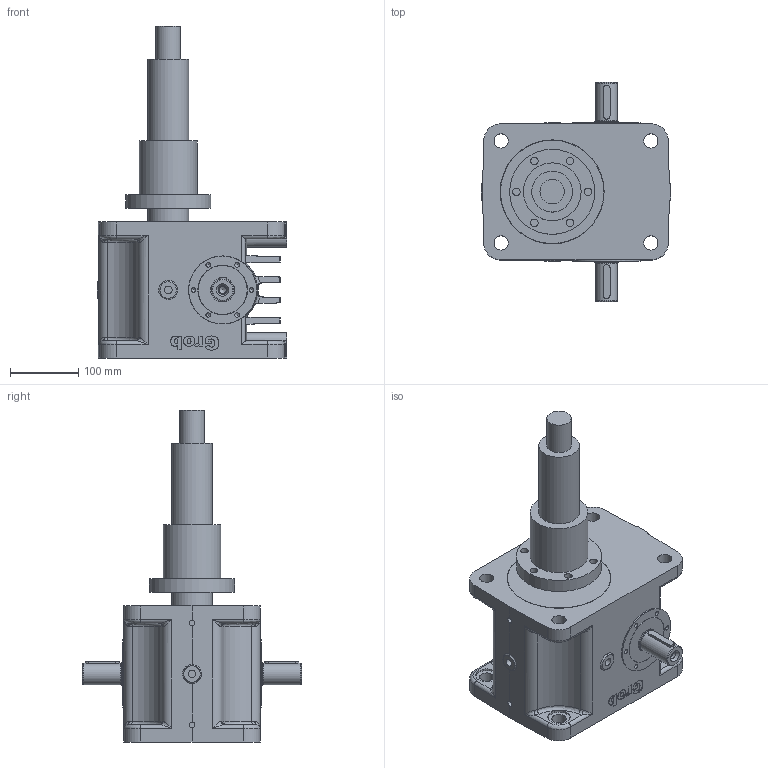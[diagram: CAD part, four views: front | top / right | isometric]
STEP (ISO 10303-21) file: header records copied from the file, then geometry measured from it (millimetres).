
FILE_DESCRIPTION(('STEP AP203'),'1');
FILE_NAME('hmc_10-lmn-kd-1f-z-0100-0239-tr60x12-bpos0.stp','2025-08-19T11:40:47',('TraceParts'),('TraceParts S.A.'),'Spatial InterOp 3D',' ',' ');
FILE_SCHEMA(('CONFIG_CONTROL_DESIGN'));
Length unit declared in the file: millimetre
Products named in the file (1): 1
Bounding box: 279 x 322 x 488 mm (x, y, z)
Volume: 9882611 mm3; surface area: 463292.7 mm2
Topology: 2 solids, 2 shells, 390 faces, 1116 edges, 760 vertices
Faces by surface type: plane 135, bspline 118, cylinder 103, cone 28, torus 6
Full cylindrical faces by diameter (mm): 6.647 x12, 8.376 x2, 10.106 x2, 11 x6, 11.445 x5, 13 x2, 21 x8, 24 x1, 31.6 x2, 32 x2, 33 x4, 35 x2, 36 x1, 60 x2, 72 x3, 75 x1, 85 x1, 125 x1, 152 x2
Entity records: 17130 total; most frequent: CARTESIAN_POINT 8057, ORIENTED_EDGE 1970, DIRECTION 1545, EDGE_CURVE 985, VERTEX_POINT 744, AXIS2_PLACEMENT_3D 594, EDGE_LOOP 551, ADVANCED_FACE 390
